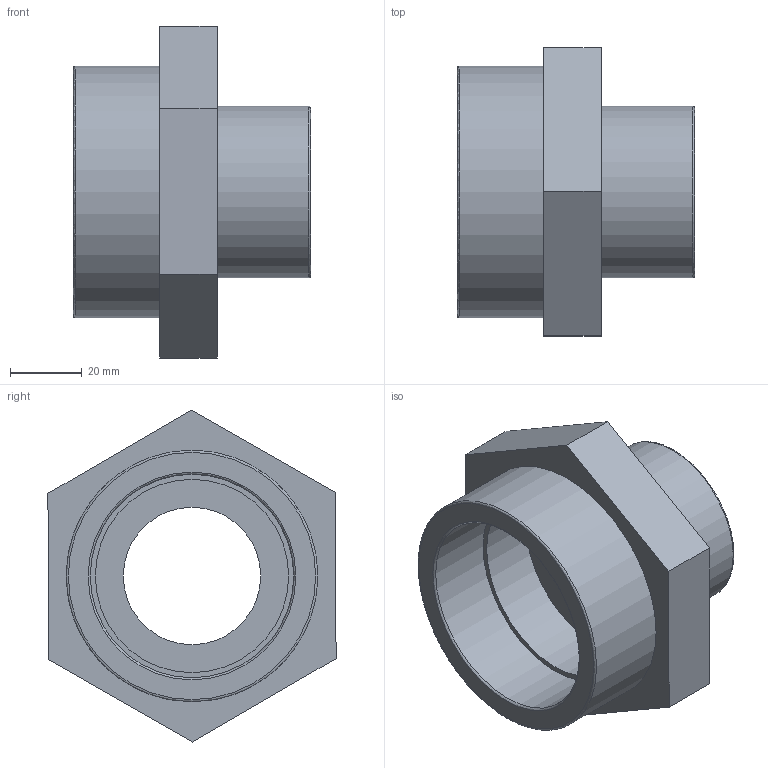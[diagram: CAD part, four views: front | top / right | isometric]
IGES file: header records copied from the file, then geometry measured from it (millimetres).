
Global section: file name: 052201015020.ipt; native system: Autodesk Inventor 2015; preprocessor: unknown; author: KIM; date: 20171207.165420; units: millimetre
Bounding box: 66 x 80.17 x 92.38 mm (x, y, z)
Volume: 107846.8 mm3; surface area: 32043.3 mm2
Topology: 1 solids, 1 shells, 21 faces, 55 edges, 40 vertices
Faces by surface type: plane 12, revolution 7, cylinder 2
Full cylindrical faces by diameter (mm): 47.803 x1, 69.97 x1
